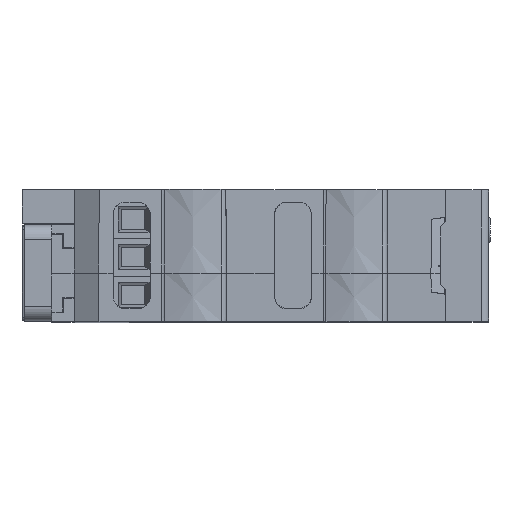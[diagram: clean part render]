
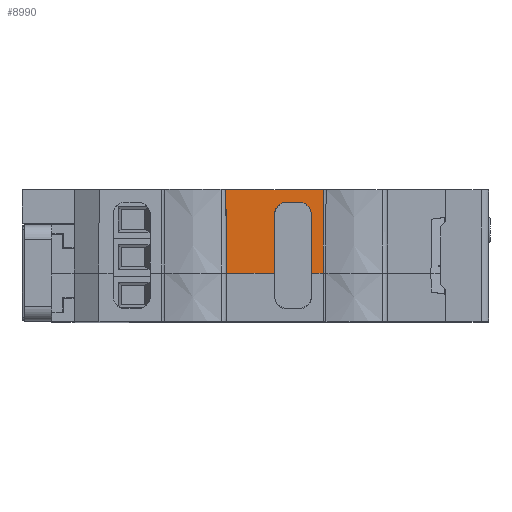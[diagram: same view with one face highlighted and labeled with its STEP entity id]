
A CAD part, top view. The second image highlights one B-rep face of the part: STEP entity #8990.
In plain terms, the highlighted planar face has unit normal (0, 0.008, 1) as drawn and (-1, 0, -0.008) by its records, which use the part's own axes.
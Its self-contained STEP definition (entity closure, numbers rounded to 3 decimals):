
#8990=ADVANCED_FACE('',(#88566),#88568,.T.);
#88566=FACE_BOUND('',#88567,.T.);
#88567=EDGE_LOOP('',(#154871,#154872,#154873,#154874,#154875,#154876,#154877,#154878,
#154879,#154880));
#88568=PLANE('',#88569);
#88569=AXIS2_PLACEMENT_3D('',#88570,#88571,#88572);
#88570=CARTESIAN_POINT('',(10.8,0.,11.25));
#88571=DIRECTION('',(-1.,0.,-0.008));
#88572=DIRECTION('',(-0.008,0.,1.));
#154871=ORIENTED_EDGE('',*,*,#217920,.F.);
#154872=ORIENTED_EDGE('',*,*,#217982,.T.);
#154873=ORIENTED_EDGE('',*,*,#217285,.T.);
#154874=ORIENTED_EDGE('',*,*,#217983,.F.);
#154875=ORIENTED_EDGE('',*,*,#217663,.F.);
#154876=ORIENTED_EDGE('',*,*,#217984,.F.);
#154877=ORIENTED_EDGE('',*,*,#217985,.T.);
#154878=ORIENTED_EDGE('',*,*,#217986,.T.);
#154879=ORIENTED_EDGE('',*,*,#217987,.T.);
#154880=ORIENTED_EDGE('',*,*,#217988,.T.);
#217285=EDGE_CURVE('',#245939,#245937,#245940,.T.);
#217663=EDGE_CURVE('',#246630,#246632,#246633,.T.);
#217920=EDGE_CURVE('',#247082,#247084,#247085,.T.);
#217982=EDGE_CURVE('',#247082,#245939,#247186,.T.);
#217983=EDGE_CURVE('',#246632,#245937,#247187,.T.);
#217984=EDGE_CURVE('',#247188,#246630,#247189,.T.);
#217985=EDGE_CURVE('',#247188,#247190,#247191,.T.);
#217986=EDGE_CURVE('',#247190,#247192,#247193,.T.);
#217987=EDGE_CURVE('',#247192,#247194,#247195,.T.);
#217988=EDGE_CURVE('',#247194,#247084,#247196,.T.);
#245937=VERTEX_POINT('',#295152);
#245939=VERTEX_POINT('',#295156);
#245940=LINE('',#295157,#295158);
#246630=VERTEX_POINT('',#296693);
#246632=VERTEX_POINT('',#296697);
#246633=LINE('',#296698,#296699);
#247082=VERTEX_POINT('',#297700);
#247084=VERTEX_POINT('',#297705);
#247085=LINE('',#297706,#297707);
#247186=LINE('',#297935,#297936);
#247187=LINE('',#297938,#297939);
#247188=VERTEX_POINT('',#297941);
#247189=LINE('',#297942,#297943);
#247190=VERTEX_POINT('',#297945);
#247191=(BOUNDED_CURVE()B_SPLINE_CURVE(3,
(#297946,#297947,#297948,#297949),
.UNSPECIFIED.,.F.,.F.)B_SPLINE_CURVE_WITH_KNOTS((4,4),
(0.,1.),
.UNSPECIFIED.)CURVE()GEOMETRIC_REPRESENTATION_ITEM()RATIONAL_B_SPLINE_CURVE((1.,
0.805,0.805,1.))REPRESENTATION_ITEM(''));
#247192=VERTEX_POINT('',#297950);
#247193=LINE('',#297951,#297952);
#247194=VERTEX_POINT('',#297954);
#247195=(BOUNDED_CURVE()B_SPLINE_CURVE(3,
(#297955,#297956,#297957,#297958),
.UNSPECIFIED.,.F.,.F.)B_SPLINE_CURVE_WITH_KNOTS((4,4),
(0.,1.),
.UNSPECIFIED.)CURVE()GEOMETRIC_REPRESENTATION_ITEM()RATIONAL_B_SPLINE_CURVE((1.,
0.805,0.805,1.))REPRESENTATION_ITEM(''));
#247196=LINE('',#297959,#297960);
#295152=CARTESIAN_POINT('',(10.888,27.412,0.));
#295156=CARTESIAN_POINT('',(10.888,40.516,0.));
#295157=CARTESIAN_POINT('',(10.888,40.516,0.));
#295158=VECTOR('',#295159,1.);
#295159=DIRECTION('',(0.,-1.,0.));
#296693=CARTESIAN_POINT('',(10.8,33.95,11.25));
#296697=CARTESIAN_POINT('',(10.8,27.5,11.25));
#296698=CARTESIAN_POINT('',(10.8,33.95,11.25));
#296699=VECTOR('',#296700,1.);
#296700=DIRECTION('',(0.,-1.,0.));
#297700=CARTESIAN_POINT('',(10.8,40.516,11.25));
#297705=CARTESIAN_POINT('',(10.8,38.95,11.25));
#297706=CARTESIAN_POINT('',(10.8,40.516,11.25));
#297707=VECTOR('',#297708,1.);
#297708=DIRECTION('',(0.,-1.,0.));
#297935=CARTESIAN_POINT('',(10.8,40.516,11.25));
#297936=VECTOR('',#297937,1.);
#297937=DIRECTION('',(0.008,0.,-1.));
#297938=CARTESIAN_POINT('',(10.8,27.5,11.25));
#297939=VECTOR('',#297940,1.);
#297940=DIRECTION('',(0.008,-0.008,-1.));
#297941=CARTESIAN_POINT('',(10.862,33.95,3.4));
#297942=CARTESIAN_POINT('',(10.862,33.95,3.4));
#297943=VECTOR('',#297944,1.);
#297944=DIRECTION('',(-0.008,0.,1.));
#297945=CARTESIAN_POINT('',(10.875,35.65,1.7));
#297946=CARTESIAN_POINT('',(10.862,33.95,3.4));
#297947=CARTESIAN_POINT('',(10.869,33.95,2.404));
#297948=CARTESIAN_POINT('',(10.875,34.654,1.7));
#297949=CARTESIAN_POINT('',(10.875,35.65,1.7));
#297950=CARTESIAN_POINT('',(10.875,37.25,1.7));
#297951=CARTESIAN_POINT('',(10.875,35.65,1.7));
#297952=VECTOR('',#297953,1.);
#297953=DIRECTION('',(0.,1.,0.));
#297954=CARTESIAN_POINT('',(10.862,38.95,3.4));
#297955=CARTESIAN_POINT('',(10.875,37.25,1.7));
#297956=CARTESIAN_POINT('',(10.875,38.246,1.7));
#297957=CARTESIAN_POINT('',(10.869,38.95,2.404));
#297958=CARTESIAN_POINT('',(10.862,38.95,3.4));
#297959=CARTESIAN_POINT('',(10.862,38.95,3.4));
#297960=VECTOR('',#297961,1.);
#297961=DIRECTION('',(-0.008,0.,1.));
